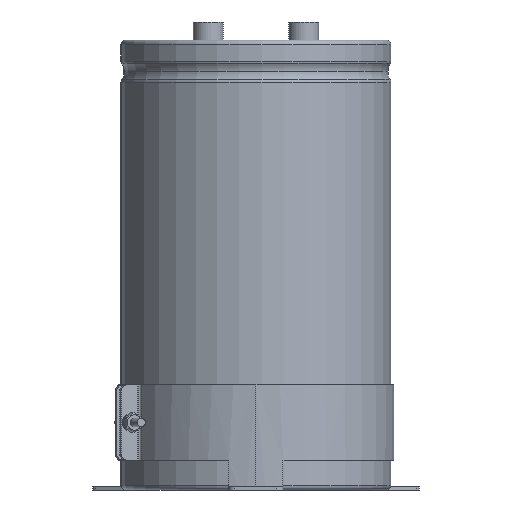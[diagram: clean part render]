
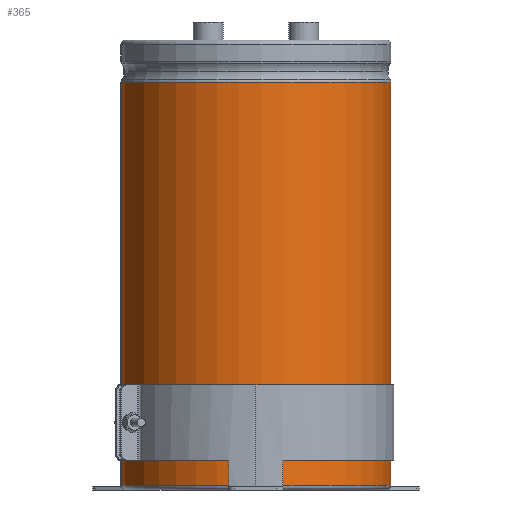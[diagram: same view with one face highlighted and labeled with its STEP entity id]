
A CAD part, left-side view. The second image highlights one B-rep face of the part: STEP entity #365.
In plain terms, the highlighted cylindrical face has radius 45 mm (diameter 90 mm), a partial arc.
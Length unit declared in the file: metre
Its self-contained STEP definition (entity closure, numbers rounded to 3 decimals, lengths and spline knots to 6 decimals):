
#365=ADVANCED_FACE('0:237',(#597),#598,.T.);
#597=FACE_OUTER_BOUND('',#1082,.T.);
#598=CYLINDRICAL_SURFACE('',#1083,0.045);
#1082=EDGE_LOOP('',(#2038,#2039,#2040,#2041));
#1083=AXIS2_PLACEMENT_3D('',#2042,#2043,#2044);
#2038=ORIENTED_EDGE('',*,*,#2995,.T.);
#2039=ORIENTED_EDGE('',*,*,#3004,.T.);
#2040=ORIENTED_EDGE('',*,*,#3006,.T.);
#2041=ORIENTED_EDGE('',*,*,#3007,.F.);
#2042=CARTESIAN_POINT('',(0.0,0.0,0.0));
#2043=DIRECTION('',(-0.0,0.0,1.0));
#2044=DIRECTION('',(0.0,1.0,0.0));
#2995=EDGE_CURVE('',#5626,#5634,#5635,.T.);
#3004=EDGE_CURVE('0:309',#5634,#5645,#5647,.T.);
#3006=EDGE_CURVE('0:312',#5645,#5649,#5650,.T.);
#3007=EDGE_CURVE('0:315',#5626,#5649,#5651,.T.);
#5626=VERTEX_POINT('',#6662);
#5634=VERTEX_POINT('',#6670);
#5635=LINE('',#6671,#6672);
#5645=VERTEX_POINT('',#6683);
#5647=CIRCLE('',#6685,0.045);
#5649=VERTEX_POINT('',#6687);
#5650=LINE('',#6688,#6689);
#5651=CIRCLE('',#6690,0.045);
#6662=CARTESIAN_POINT('',(0.,-0.045,0.0015));
#6670=CARTESIAN_POINT('',(0.,-0.045,0.1359));
#6671=CARTESIAN_POINT('',(0.,-0.045,0.0687));
#6672=VECTOR('',#8209,1.0);
#6683=CARTESIAN_POINT('',(-0.004,0.044822,0.1359));
#6685=AXIS2_PLACEMENT_3D('',#8226,#8227,#8228);
#6687=CARTESIAN_POINT('',(-0.004,0.044822,0.0015));
#6688=CARTESIAN_POINT('',(-0.004,0.044822,0.1359));
#6689=VECTOR('',#8229,0.001);
#6690=AXIS2_PLACEMENT_3D('',#8230,#8231,#8232);
#8209=DIRECTION('',(0.0,0.0,1.0));
#8226=CARTESIAN_POINT('',(0.0,0.0,0.1359));
#8227=DIRECTION('',(0.0,0.0,-1.0));
#8228=DIRECTION('',(0.0,1.0,0.0));
#8229=DIRECTION('',(0.0,0.0,-1.0));
#8230=CARTESIAN_POINT('',(0.0,0.0,0.0015));
#8231=DIRECTION('',(0.0,0.0,-1.0));
#8232=DIRECTION('',(0.0,1.0,0.0));
